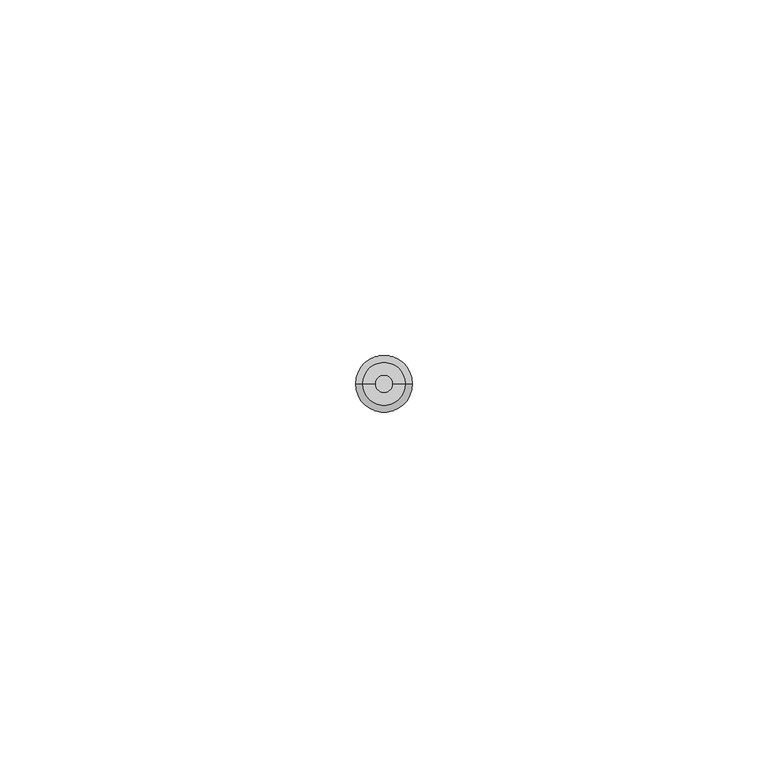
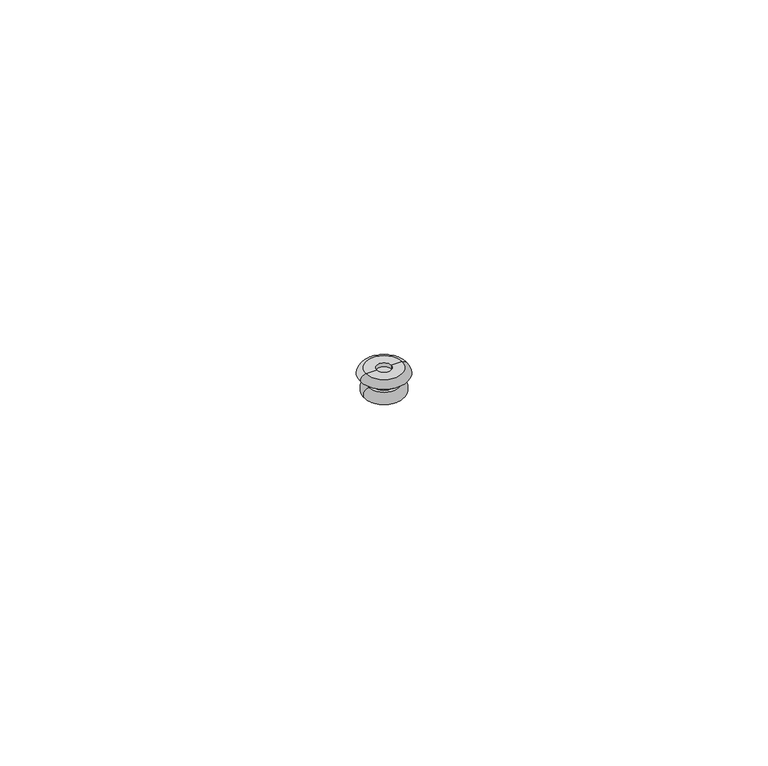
"""IFC4 building model written with IfcOpenShell, lengths in millimetres: proxy geometry, ALT_Заклёпка вытяжная : ∅4x6_А2/А2."""

from ifc_helpers import new_model, si_unit, point, frame, origin, origin_2d, place, context, project, spatial, polyline, circle_curve, ellipse_curve, trimmed, segment, composite_curve, outline, extrude, source, transform, mapped, element, save
from ifc_brep_helpers import plane_surface, revolved_surface, advanced_brep


def generic_models_137cf94e(model_context):
    return source(origin(), model_context, "Body", "SolidModel", [
        extrude(outline(composite_curve([segment(trimmed(circle_curve(origin_2d(), 2.0), [point((-2.0, 0.0))], [point((2.0, 0.0))], False, "CARTESIAN"), True, "CONTINUOUS"), segment(trimmed(circle_curve(origin_2d(), 2.0), [point((2.0, 0.0))], [point((-2.0, 0.0))], False, "CARTESIAN"), True, "CONTINUOUS")], self_intersect=False)), frame((0.0, 0.0, -1.6), z_axis=(0.0, 0.0, 1.0), x_axis=(1.0, 0.0, 0.0)), (0.0, 0.0, 1.0), 1.6),
        advanced_brep(
        [(-1.25, 0.0, 1.0), (1.25, 0.0, 1.0), (3.0, 0.0, 1.0), (-3.0, 0.0, 1.0), (-1.25, 0.0, 0.0), (1.25, 0.0, 0.0), (-4.0, 0.0, 0.0), (4.0, 0.0, 0.0)],
        [
            (0, 1, circle_curve(frame((0.0, 0.0, 1.0), z_axis=(0.0, 0.0, -1.0), x_axis=(1.0, 0.0, 0.0)), 1.25)),
            (1, 2),
            (2, 3, circle_curve(frame((0.0, 0.0, 1.0), z_axis=(0.0, 0.0, 1.0), x_axis=(1.0, 0.0, 0.0)), 3.0)),
            (3, 0),
            (1, 0, circle_curve(frame((0.0, 0.0, 1.0), z_axis=(0.0, 0.0, -1.0), x_axis=(1.0, 0.0, 0.0)), 1.25)),
            (3, 2, circle_curve(frame((0.0, 0.0, 1.0), z_axis=(0.0, 0.0, 1.0), x_axis=(1.0, 0.0, 0.0)), 3.0)),
            (4, 5, circle_curve(frame((0.0, 0.0, 0.0), z_axis=(0.0, 0.0, -1.0), x_axis=(1.0, 0.0, 0.0)), 1.25)),
            (5, 1),
            (0, 4),
            (5, 4, circle_curve(frame((0.0, 0.0, 0.0), z_axis=(0.0, 0.0, -1.0), x_axis=(1.0, 0.0, 0.0)), 1.25)),
            (6, 7, circle_curve(frame((0.0, 0.0, 0.0), z_axis=(0.0, 0.0, -1.0), x_axis=(1.0, 0.0, 0.0)), 4.0)),
            (7, 5),
            (4, 6),
            (7, 6, circle_curve(frame((0.0, 0.0, 0.0), z_axis=(0.0, 0.0, -1.0), x_axis=(1.0, 0.0, 0.0)), 4.0)),
            (2, 7, circle_curve(frame((3.0, 0.0, 0.0), z_axis=(0.0, 1.0, 0.0), x_axis=(1.0, 0.0, 0.0)), 1.0)),
            (6, 3, circle_curve(frame((-3.0, 0.0, 0.0), z_axis=(0.0, 1.0, 0.0), x_axis=(-1.0, 0.0, 0.0)), 1.0)),
        ],
        [
            plane_surface(frame((0.0, 0.0, 1.0), z_axis=(0.0, 0.0, 1.0), x_axis=(1.0, 0.0, 0.0))),
            revolved_surface(polyline([(1.25, 0.0, 1.0), (1.25, 0.0, 0.0)]), (0.0, 0.0, 2.5855144), (0.0, 0.0, 1.0)),
            plane_surface(frame((0.0, 0.0, 0.0), z_axis=(0.0, 0.0, -1.0), x_axis=(1.0, 0.0, 0.0))),
            revolved_surface(trimmed(ellipse_curve(frame((3.0, 0.0, 0.0), z_axis=(0.0, -1.0, 0.0), x_axis=(1.0, 0.0, 0.0)), 1.0, 1.0), [point((4.0, 0.0, 0.0))], [point((3.0, 0.0, 1.0))], True, "CARTESIAN"), (0.0, 0.0, 2.5855144), (0.0, 0.0, 1.0)),
        ],
        [
            (0, [[1, 2, 3, 4]]),
            (0, [[5, -4, 6, -2]]),
            (1, [[7, 8, -1, 9]]),
            (1, [[10, -9, -5, -8]]),
            (2, [[11, 12, -7, 13]]),
            (2, [[14, -13, -10, -12]]),
            (3, [[-3, 15, -11, 16]]),
            (3, [[-6, -16, -14, -15]]),
        ],
    ),
        advanced_brep(
        [(0.0, 0.0, -1.6), (2.5, 0.0, -1.6), (-2.5, 0.0, -1.6), (-1.7193922, 0.0, -3.5763265), (1.7193922, 0.0, -3.5763265), (0.0, 0.0, -4.3342178), (-2.5, 0.0, -3.5763265), (2.5, 0.0, -3.5763265)],
        [
            (0, 1),
            (1, 2, circle_curve(frame((0.0, 0.0, -1.6), z_axis=(0.0, 0.0, 1.0), x_axis=(1.0, 0.0, 0.0)), 2.5)),
            (2, 0),
            (2, 1, circle_curve(frame((0.0, 0.0, -1.6), z_axis=(0.0, 0.0, 1.0), x_axis=(1.0, 0.0, 0.0)), 2.5)),
            (3, 4, circle_curve(frame((0.0, 0.0, -3.5763265), z_axis=(0.0, 0.0, -1.0), x_axis=(1.0, 0.0, 0.0)), 1.7193922)),
            (4, 5, circle_curve(frame((0.2975252, 0.0, -2.6799017), z_axis=(0.0, 1.0, 0.0), x_axis=(1.0, 0.0, 0.0)), 1.6808578)),
            (5, 3, circle_curve(frame((-0.2975252, 0.0, -2.6799017), z_axis=(0.0, 1.0, 0.0), x_axis=(-1.0, 0.0, 0.0)), 1.6808578)),
            (4, 3, circle_curve(frame((0.0, 0.0, -3.5763265), z_axis=(0.0, 0.0, -1.0), x_axis=(1.0, 0.0, 0.0)), 1.7193922)),
            (6, 7, circle_curve(frame((0.0, 0.0, -3.5763265), z_axis=(0.0, 0.0, -1.0), x_axis=(1.0, 0.0, 0.0)), 2.5)),
            (7, 4),
            (3, 6),
            (7, 6, circle_curve(frame((0.0, 0.0, -3.5763265), z_axis=(0.0, 0.0, -1.0), x_axis=(1.0, 0.0, 0.0)), 2.5)),
            (1, 7, circle_curve(frame((2.5, 0.0, -2.5881633), z_axis=(0.0, 1.0, 0.0), x_axis=(1.0, 0.0, 0.0)), 0.9881633)),
            (6, 2, circle_curve(frame((-2.5, 0.0, -2.5881633), z_axis=(0.0, 1.0, 0.0), x_axis=(-1.0, 0.0, 0.0)), 0.9881633)),
        ],
        [
            plane_surface(frame((0.0, 0.0, -1.6), z_axis=(0.0, 0.0, 1.0), x_axis=(1.0, 0.0, 0.0))),
            revolved_surface(trimmed(ellipse_curve(frame((0.2975252, 0.0, -2.6799017), z_axis=(0.0, -1.0, 0.0), x_axis=(1.0, 0.0, 0.0)), 1.6808578, 1.6808578), [point((0.0, 0.0, -4.3342178))], [point((1.7193922, 0.0, -3.5763265))], True, "CARTESIAN"), (0.0, 0.0, 2.5855144), (0.0, 0.0, 1.0)),
            plane_surface(frame((0.0, 0.0, -3.5763265), z_axis=(0.0, 0.0, -1.0), x_axis=(1.0, 0.0, 0.0))),
            revolved_surface(trimmed(ellipse_curve(frame((2.5, 0.0, -2.5881633), z_axis=(0.0, -1.0, 0.0), x_axis=(1.0, 0.0, 0.0)), 0.9881633, 0.9881633), [point((2.5, 0.0, -3.5763265))], [point((2.5, 0.0, -1.6))], True, "CARTESIAN"), (0.0, 0.0, 2.5855144), (0.0, 0.0, 1.0)),
        ],
        [
            (0, [[1, 2, 3]]),
            (0, [[-3, 4, -1]]),
            (1, [[5, 6, 7]]),
            (1, [[8, -7, -6]]),
            (2, [[9, 10, -5, 11]]),
            (2, [[12, -11, -8, -10]]),
            (3, [[-2, 13, -9, 14]]),
            (3, [[-4, -14, -12, -13]]),
        ],
    ),
    ])


if __name__ == "__main__":
    model = new_model("IFC4")
    model_context = context("Model", 3, world=origin())
    ifc_project = project(units=[si_unit("LENGTHUNIT", "METRE", prefix="MILLI")], contexts=[model_context])
    site = spatial("IfcSite", under=ifc_project)
    building = spatial("IfcBuilding", under=site)
    placement = place(None, origin())
    generic_models_shape = generic_models_137cf94e(model_context)
    element("IfcBuildingElementProxy", 1, Name="ALT_Заклёпка вытяжная : ∅4x6_А2/А2", ObjectType="ALT_Заклёпка вытяжная : ∅4x6_А2/А2", at=placement, inside=building, context=model_context, shape_type="MappedRepresentation", body=[
        mapped(generic_models_shape, transform((0.0, 0.0, 0.0), x_axis=(1.0, 0.0, 0.0), y_axis=(0.0, 1.0, 0.0), z_axis=(0.0, 0.0, 1.0))),
    ])
    save(model, "model.ifc")
